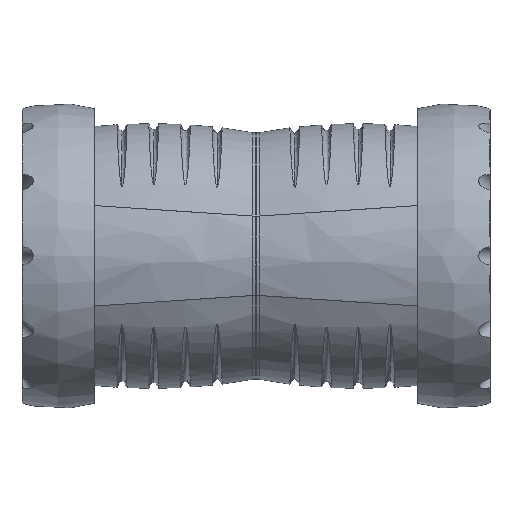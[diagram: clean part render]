
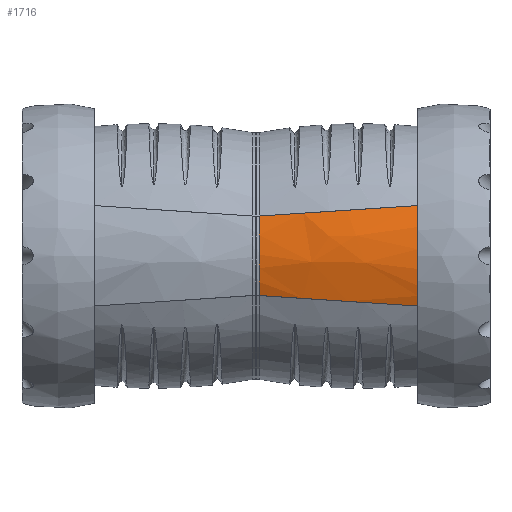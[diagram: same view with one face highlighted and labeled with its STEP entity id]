
A CAD part, top view. The second image highlights one B-rep face of the part: STEP entity #1716.
In plain terms, the highlighted free-form (B-spline) face has degree [3, 3] with [5, 4] control points.
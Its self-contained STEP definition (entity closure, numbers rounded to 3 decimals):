
#82=B_SPLINE_SURFACE_WITH_KNOTS('',3,3,((#2963,#2964,#2965,#2966),(#2967,
#2968,#2969,#2970),(#2971,#2972,#2973,#2974),(#2975,#2976,#2977,#2978),
(#2979,#2980,#2981,#2982)),.UNSPECIFIED.,.F.,.F.,.F.,(4,1,4),(4,4),(0.,
0.571,1.),(0.,0.558),.UNSPECIFIED.);
#93=B_SPLINE_CURVE_WITH_KNOTS('',3,(#2329,#2330,#2331,#2332,#2333,#2334,
#2335),.UNSPECIFIED.,.F.,.F.,(4,3,4),(-1.79,-0.895,
0.),.UNSPECIFIED.);
#127=B_SPLINE_CURVE_WITH_KNOTS('',3,(#2934,#2935,#2936,#2937),
 .UNSPECIFIED.,.F.,.F.,(4,4),(0.,0.558),.UNSPECIFIED.);
#128=B_SPLINE_CURVE_WITH_KNOTS('',3,(#2955,#2956,#2957,#2958),
 .UNSPECIFIED.,.F.,.F.,(4,4),(0.,0.558),.UNSPECIFIED.);
#130=B_SPLINE_CURVE_WITH_KNOTS('',3,(#2983,#2984,#2985,#2986,#2987),
 .UNSPECIFIED.,.F.,.F.,(4,1,4),(0.,0.571,1.),.UNSPECIFIED.);
#272=FACE_OUTER_BOUND('',#463,.T.);
#463=EDGE_LOOP('',(#1160,#1161,#1162,#1163));
#662=VERTEX_POINT('',#2305);
#664=VERTEX_POINT('',#2328);
#694=VERTEX_POINT('',#2929);
#695=VERTEX_POINT('',#2954);
#841=EDGE_CURVE('',#662,#664,#93,.T.);
#883=EDGE_CURVE('',#694,#664,#127,.T.);
#884=EDGE_CURVE('',#695,#662,#128,.T.);
#886=EDGE_CURVE('',#695,#694,#130,.T.);
#1160=ORIENTED_EDGE('',*,*,#841,.T.);
#1161=ORIENTED_EDGE('',*,*,#883,.F.);
#1162=ORIENTED_EDGE('',*,*,#886,.F.);
#1163=ORIENTED_EDGE('',*,*,#884,.T.);
#1716=ADVANCED_FACE('',(#272),#82,.F.);
#2305=CARTESIAN_POINT('',(0.7,8.745,26.753));
#2328=CARTESIAN_POINT('',(0.7,-8.745,26.753));
#2329=CARTESIAN_POINT('Ctrl Pts',(0.7,8.745,26.753));
#2330=CARTESIAN_POINT('Ctrl Pts',(0.7,5.945,27.782));
#2331=CARTESIAN_POINT('Ctrl Pts',(0.7,2.983,28.308));
#2332=CARTESIAN_POINT('Ctrl Pts',(0.7,0.,
28.308));
#2333=CARTESIAN_POINT('Ctrl Pts',(0.7,-2.983,28.308));
#2334=CARTESIAN_POINT('Ctrl Pts',(0.7,-5.946,27.782));
#2335=CARTESIAN_POINT('Ctrl Pts',(0.7,-8.745,26.753));
#2929=CARTESIAN_POINT('',(35.6,-11.055,27.077));
#2934=CARTESIAN_POINT('Ctrl Pts',(35.6,-11.055,27.077));
#2935=CARTESIAN_POINT('Ctrl Pts',(24.021,-10.285,28.215));
#2936=CARTESIAN_POINT('Ctrl Pts',(12.299,-9.515,28.109));
#2937=CARTESIAN_POINT('Ctrl Pts',(0.7,-8.745,26.753));
#2954=CARTESIAN_POINT('',(35.6,11.055,27.077));
#2955=CARTESIAN_POINT('Ctrl Pts',(35.6,11.055,27.077));
#2956=CARTESIAN_POINT('Ctrl Pts',(24.021,10.285,28.215));
#2957=CARTESIAN_POINT('Ctrl Pts',(12.299,9.515,28.109));
#2958=CARTESIAN_POINT('Ctrl Pts',(0.7,8.745,26.753));
#2963=CARTESIAN_POINT('Ctrl Pts',(35.6,11.055,27.077));
#2964=CARTESIAN_POINT('Ctrl Pts',(24.021,10.285,28.215));
#2965=CARTESIAN_POINT('Ctrl Pts',(12.299,9.515,28.109));
#2966=CARTESIAN_POINT('Ctrl Pts',(0.7,8.745,26.753));
#2967=CARTESIAN_POINT('Ctrl Pts',(35.6,7.057,28.71));
#2968=CARTESIAN_POINT('Ctrl Pts',(23.963,6.557,29.686));
#2969=CARTESIAN_POINT('Ctrl Pts',(12.217,6.057,29.422));
#2970=CARTESIAN_POINT('Ctrl Pts',(0.625,5.557,27.915));
#2971=CARTESIAN_POINT('Ctrl Pts',(35.6,-0.58,29.989));
#2972=CARTESIAN_POINT('Ctrl Pts',(23.917,-0.537,30.839));
#2973=CARTESIAN_POINT('Ctrl Pts',(12.151,-0.495,30.445));
#2974=CARTESIAN_POINT('Ctrl Pts',(0.566,-0.452,28.82));
#2975=CARTESIAN_POINT('Ctrl Pts',(35.6,-8.056,28.302));
#2976=CARTESIAN_POINT('Ctrl Pts',(23.978,-7.489,29.319));
#2977=CARTESIAN_POINT('Ctrl Pts',(12.237,-6.921,29.093));
#2978=CARTESIAN_POINT('Ctrl Pts',(0.644,-6.354,27.624));
#2979=CARTESIAN_POINT('Ctrl Pts',(35.6,-11.055,27.077));
#2980=CARTESIAN_POINT('Ctrl Pts',(24.021,-10.285,28.215));
#2981=CARTESIAN_POINT('Ctrl Pts',(12.299,-9.515,28.109));
#2982=CARTESIAN_POINT('Ctrl Pts',(0.7,-8.745,26.753));
#2983=CARTESIAN_POINT('Ctrl Pts',(35.6,11.055,27.077));
#2984=CARTESIAN_POINT('Ctrl Pts',(35.6,7.057,28.71));
#2985=CARTESIAN_POINT('Ctrl Pts',(35.6,-0.58,29.989));
#2986=CARTESIAN_POINT('Ctrl Pts',(35.6,-8.056,28.302));
#2987=CARTESIAN_POINT('Ctrl Pts',(35.6,-11.055,27.077));
